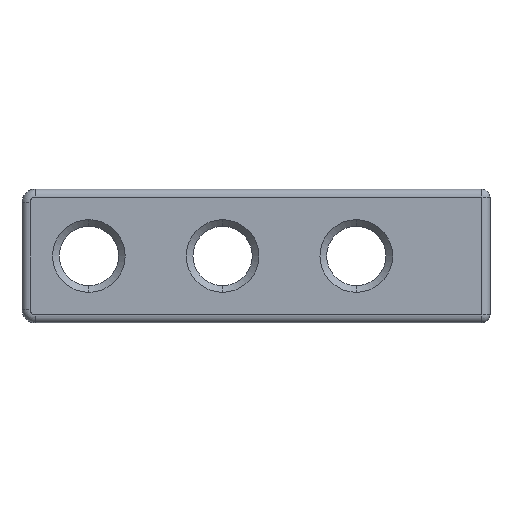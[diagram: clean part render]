
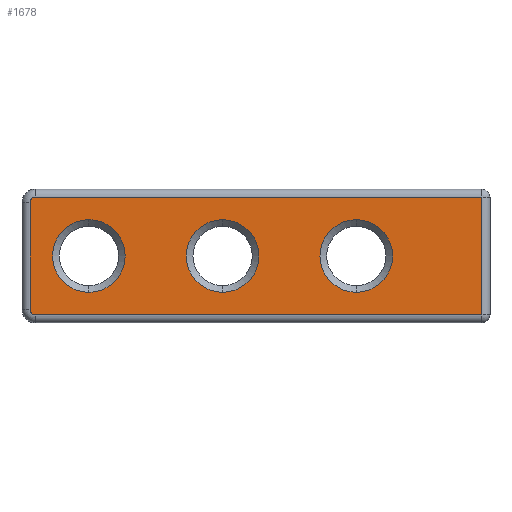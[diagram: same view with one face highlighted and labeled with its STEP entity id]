
A CAD part, left-side view. The second image highlights one B-rep face of the part: STEP entity #1678.
In plain terms, the highlighted planar face has unit normal (-1, 0, 0).
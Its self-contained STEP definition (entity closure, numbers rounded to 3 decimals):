
#8 = DIRECTION ( 'NONE',  ( 0., -1., 0. ) ) ;
#88 = VERTEX_POINT ( 'NONE', #313 ) ;
#91 = AXIS2_PLACEMENT_3D ( 'NONE', #324, #2009, #502 ) ;
#147 = EDGE_CURVE ( 'NONE', #2145, #272, #494, .T. ) ;
#149 = DIRECTION ( 'NONE',  ( 0., 0., -1. ) ) ;
#154 = DIRECTION ( 'NONE',  ( 1., 0., 0. ) ) ;
#155 = DIRECTION ( 'NONE',  ( 0., 0., -1. ) ) ;
#161 = DIRECTION ( 'NONE',  ( -1., 0., 0. ) ) ;
#178 = CARTESIAN_POINT ( 'NONE',  ( 0., 170., 47. ) ) ;
#223 = CIRCLE ( 'NONE', #1733, 13.575 ) ;
#259 = EDGE_CURVE ( 'NONE', #1351, #88, #637, .T. ) ;
#272 = VERTEX_POINT ( 'NONE', #1383 ) ;
#276 = ORIENTED_EDGE ( 'NONE', *, *, #731, .T. ) ;
#281 = AXIS2_PLACEMENT_3D ( 'NONE', #1822, #161, #149 ) ;
#292 = CARTESIAN_POINT ( 'NONE',  ( 0., 172., 5. ) ) ;
#313 = CARTESIAN_POINT ( 'NONE',  ( 0., 172., 45. ) ) ;
#324 = CARTESIAN_POINT ( 'NONE',  ( 0., 150., 25. ) ) ;
#325 = AXIS2_PLACEMENT_3D ( 'NONE', #668, #519, #155 ) ;
#375 = CARTESIAN_POINT ( 'NONE',  ( 0., 0., 47. ) ) ;
#379 = DIRECTION ( 'NONE',  ( 0., 0., -1. ) ) ;
#380 = EDGE_LOOP ( 'NONE', ( #276, #930 ) ) ;
#393 = EDGE_CURVE ( 'NONE', #792, #458, #514, .T. ) ;
#416 = ORIENTED_EDGE ( 'NONE', *, *, #259, .T. ) ;
#425 = CARTESIAN_POINT ( 'NONE',  ( 0., 150., 25. ) ) ;
#430 = LINE ( 'NONE', #905, #2080 ) ;
#445 = CIRCLE ( 'NONE', #91, 13.575 ) ;
#454 = CARTESIAN_POINT ( 'NONE',  ( 0., 3., 3. ) ) ;
#458 = VERTEX_POINT ( 'NONE', #914 ) ;
#462 = LINE ( 'NONE', #1796, #683 ) ;
#470 = CARTESIAN_POINT ( 'NONE',  ( 0., 50., 25. ) ) ;
#473 = CARTESIAN_POINT ( 'NONE',  ( 0., 170., 3. ) ) ;
#494 = CIRCLE ( 'NONE', #1972, 13.575 ) ;
#502 = DIRECTION ( 'NONE',  ( 0., 0., -1. ) ) ;
#512 = DIRECTION ( 'NONE',  ( 1., 0., 0. ) ) ;
#514 = CIRCLE ( 'NONE', #1745, 13.575 ) ;
#519 = DIRECTION ( 'NONE',  ( 1., 0., 0. ) ) ;
#629 = DIRECTION ( 'NONE',  ( 0., 0., -1. ) ) ;
#637 = CIRCLE ( 'NONE', #1963, 2. ) ;
#638 = AXIS2_PLACEMENT_3D ( 'NONE', #1852, #512, #1506 ) ;
#661 = ORIENTED_EDGE ( 'NONE', *, *, #1941, .T. ) ;
#668 = CARTESIAN_POINT ( 'NONE',  ( 0., 100., 25. ) ) ;
#683 = VECTOR ( 'NONE', #8, 1000. ) ;
#699 = CARTESIAN_POINT ( 'NONE',  ( 0., 100., 25. ) ) ;
#708 = DIRECTION ( 'NONE',  ( 0., 0., -1. ) ) ;
#731 = EDGE_CURVE ( 'NONE', #272, #2145, #223, .T. ) ;
#792 = VERTEX_POINT ( 'NONE', #1953 ) ;
#825 = EDGE_CURVE ( 'NONE', #1304, #1805, #1907, .T. ) ;
#844 = CARTESIAN_POINT ( 'NONE',  ( 0., 100., 38.575 ) ) ;
#894 = ORIENTED_EDGE ( 'NONE', *, *, #393, .T. ) ;
#905 = CARTESIAN_POINT ( 'NONE',  ( 0., 3., 50. ) ) ;
#914 = CARTESIAN_POINT ( 'NONE',  ( 0., 150., 11.425 ) ) ;
#930 = ORIENTED_EDGE ( 'NONE', *, *, #147, .T. ) ;
#972 = ORIENTED_EDGE ( 'NONE', *, *, #1328, .T. ) ;
#984 = EDGE_CURVE ( 'NONE', #1805, #1304, #1116, .T. ) ;
#1039 = LINE ( 'NONE', #375, #1620 ) ;
#1040 = DIRECTION ( 'NONE',  ( 0., 0., -1. ) ) ;
#1100 = DIRECTION ( 'NONE',  ( 0., 0., -1. ) ) ;
#1116 = CIRCLE ( 'NONE', #1955, 13.575 ) ;
#1160 = CARTESIAN_POINT ( 'NONE',  ( 0., 3., 47. ) ) ;
#1166 = FACE_BOUND ( 'NONE', #1604, .T. ) ;
#1221 = ORIENTED_EDGE ( 'NONE', *, *, #1834, .T. ) ;
#1259 = LINE ( 'NONE', #2094, #1424 ) ;
#1262 = EDGE_CURVE ( 'NONE', #458, #792, #445, .T. ) ;
#1304 = VERTEX_POINT ( 'NONE', #844 ) ;
#1328 = EDGE_CURVE ( 'NONE', #1979, #1555, #1370, .T. ) ;
#1341 = CARTESIAN_POINT ( 'NONE',  ( 0., 50., 25. ) ) ;
#1351 = VERTEX_POINT ( 'NONE', #178 ) ;
#1370 = CIRCLE ( 'NONE', #281, 2. ) ;
#1371 = CARTESIAN_POINT ( 'NONE',  ( 0., 100., 11.425 ) ) ;
#1383 = CARTESIAN_POINT ( 'NONE',  ( 0., 50., 38.575 ) ) ;
#1424 = VECTOR ( 'NONE', #1100, 1000. ) ;
#1506 = DIRECTION ( 'NONE',  ( 0., 0., -1. ) ) ;
#1508 = EDGE_CURVE ( 'NONE', #1592, #1351, #1039, .T. ) ;
#1524 = PLANE ( 'NONE',  #638 ) ;
#1555 = VERTEX_POINT ( 'NONE', #473 ) ;
#1585 = ORIENTED_EDGE ( 'NONE', *, *, #1508, .T. ) ;
#1592 = VERTEX_POINT ( 'NONE', #1160 ) ;
#1593 = DIRECTION ( 'NONE',  ( 0., 0., -1. ) ) ;
#1595 = VERTEX_POINT ( 'NONE', #454 ) ;
#1604 = EDGE_LOOP ( 'NONE', ( #2023, #1876 ) ) ;
#1620 = VECTOR ( 'NONE', #1720, 1000. ) ;
#1640 = DIRECTION ( 'NONE',  ( 1., 0., 0. ) ) ;
#1678 = ADVANCED_FACE ( 'NONE', ( #1981, #1835, #1166, #1999 ), #1524, .F. ) ;
#1720 = DIRECTION ( 'NONE',  ( 0., 1., 0. ) ) ;
#1733 = AXIS2_PLACEMENT_3D ( 'NONE', #470, #1640, #629 ) ;
#1745 = AXIS2_PLACEMENT_3D ( 'NONE', #425, #1927, #1593 ) ;
#1763 = DIRECTION ( 'NONE',  ( 0., 0., 1. ) ) ;
#1774 = DIRECTION ( 'NONE',  ( -1., 0., 0. ) ) ;
#1796 = CARTESIAN_POINT ( 'NONE',  ( 0., 0., 3. ) ) ;
#1801 = ORIENTED_EDGE ( 'NONE', *, *, #1983, .T. ) ;
#1805 = VERTEX_POINT ( 'NONE', #1371 ) ;
#1822 = CARTESIAN_POINT ( 'NONE',  ( 0., 170., 5. ) ) ;
#1834 = EDGE_CURVE ( 'NONE', #88, #1979, #1259, .T. ) ;
#1835 = FACE_OUTER_BOUND ( 'NONE', #2049, .T. ) ;
#1852 = CARTESIAN_POINT ( 'NONE',  ( 0., 0., 50. ) ) ;
#1876 = ORIENTED_EDGE ( 'NONE', *, *, #984, .T. ) ;
#1907 = CIRCLE ( 'NONE', #325, 13.575 ) ;
#1927 = DIRECTION ( 'NONE',  ( 1., 0., 0. ) ) ;
#1941 = EDGE_CURVE ( 'NONE', #1595, #1592, #430, .T. ) ;
#1952 = ORIENTED_EDGE ( 'NONE', *, *, #1262, .T. ) ;
#1953 = CARTESIAN_POINT ( 'NONE',  ( 0., 150., 38.575 ) ) ;
#1955 = AXIS2_PLACEMENT_3D ( 'NONE', #699, #2036, #379 ) ;
#1963 = AXIS2_PLACEMENT_3D ( 'NONE', #2043, #1774, #708 ) ;
#1972 = AXIS2_PLACEMENT_3D ( 'NONE', #1341, #154, #1040 ) ;
#1979 = VERTEX_POINT ( 'NONE', #292 ) ;
#1981 = FACE_BOUND ( 'NONE', #380, .T. ) ;
#1982 = EDGE_LOOP ( 'NONE', ( #894, #1952 ) ) ;
#1983 = EDGE_CURVE ( 'NONE', #1555, #1595, #462, .T. ) ;
#1999 = FACE_BOUND ( 'NONE', #1982, .T. ) ;
#2009 = DIRECTION ( 'NONE',  ( 1., 0., 0. ) ) ;
#2023 = ORIENTED_EDGE ( 'NONE', *, *, #825, .T. ) ;
#2028 = CARTESIAN_POINT ( 'NONE',  ( 0., 50., 11.425 ) ) ;
#2036 = DIRECTION ( 'NONE',  ( 1., 0., 0. ) ) ;
#2043 = CARTESIAN_POINT ( 'NONE',  ( 0., 170., 45. ) ) ;
#2049 = EDGE_LOOP ( 'NONE', ( #972, #1801, #661, #1585, #416, #1221 ) ) ;
#2080 = VECTOR ( 'NONE', #1763, 1000. ) ;
#2094 = CARTESIAN_POINT ( 'NONE',  ( 0., 172., 50. ) ) ;
#2145 = VERTEX_POINT ( 'NONE', #2028 ) ;
